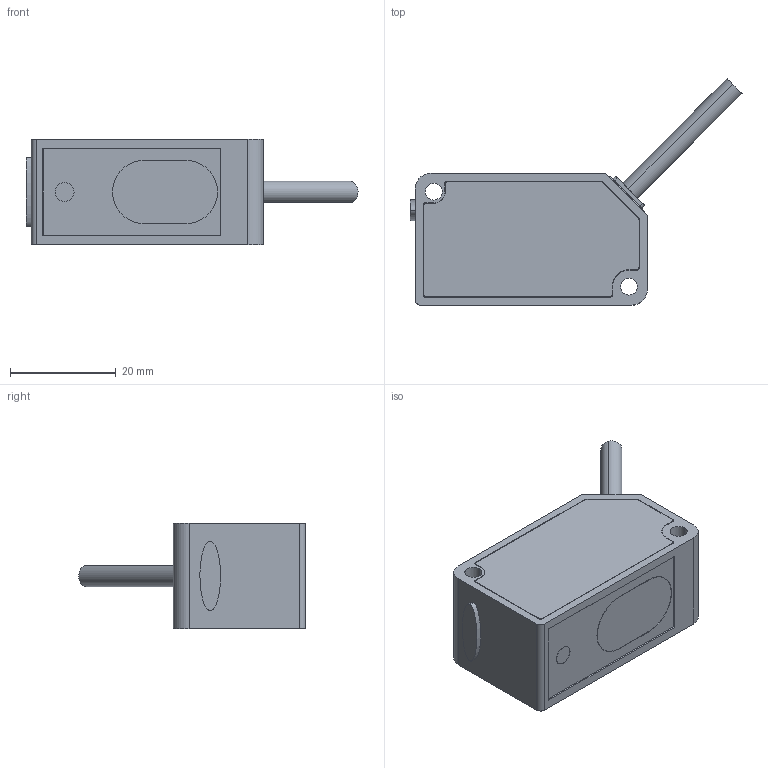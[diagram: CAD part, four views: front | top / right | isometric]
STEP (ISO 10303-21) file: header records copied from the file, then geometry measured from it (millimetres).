
FILE_DESCRIPTION (( 'STEP AP203' ), '1' );
FILE_NAME ('PL25.STEP', '2023-08-18T05:01:48', ( '' ), ( '' ), 'SwSTEP 2.0', 'SolidWorks 2018', '' );
FILE_SCHEMA (( 'CONFIG_CONTROL_DESIGN' ));
Length unit declared in the file: millimetre
Products named in the file (6): SD200XXXX-俋褲-A; PL25; SD200XXXX-薦嫖え-A; SD200XXXX-絳盄-A; SD200XXXX-裔啣-A; SD200XXXX-絳盄杶-A
Assembly tree (5 placements, depth 2):
  PL25
    SD200XXXX-俋褲-A
    SD200XXXX-裔啣-A
    SD200XXXX-絳盄杶-A
    SD200XXXX-絳盄-A
    SD200XXXX-薦嫖え-A
Bounding box: 62.92 x 42.92 x 20 mm (x, y, z)
Volume: 21013.6 mm3; surface area: 9535.1 mm2
Topology: 6 solids, 7 shells, 191 faces, 479 edges, 318 vertices
Faces by surface type: plane 115, cylinder 74, bspline 2
Entity records: 6401 total; most frequent: CARTESIAN_POINT 1072, DIRECTION 1001, ORIENTED_EDGE 958, EDGE_CURVE 479, AXIS2_PLACEMENT_3D 339, VECTOR 323, LINE 323, VERTEX_POINT 318
